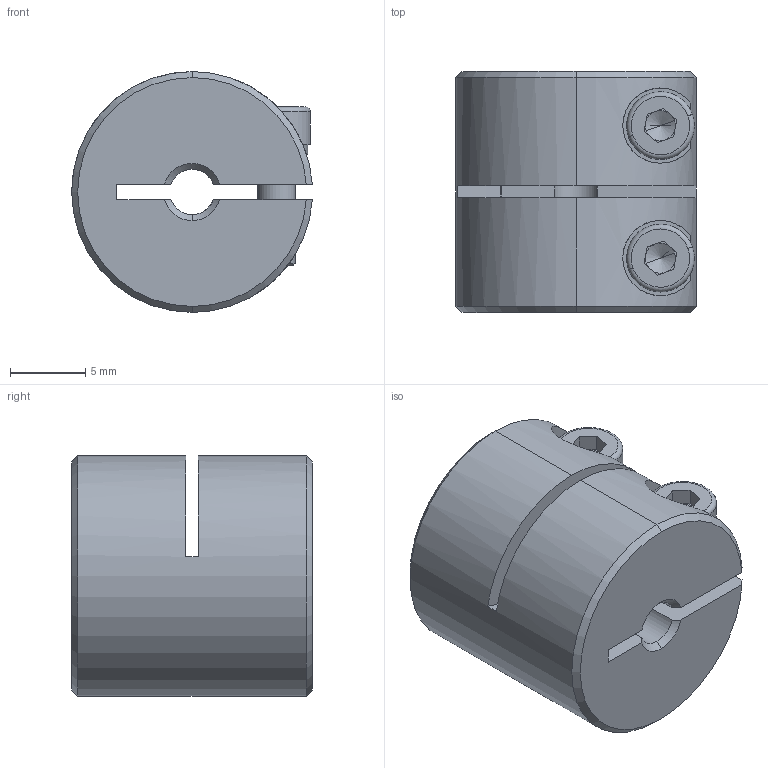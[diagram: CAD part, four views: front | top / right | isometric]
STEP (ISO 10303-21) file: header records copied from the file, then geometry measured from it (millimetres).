
FILE_DESCRIPTION (( 'STEP AP203' ), '1' );
FILE_NAME ('LL-B-D16L16-3-3.STEP', '2021-11-03T02:27:33', ( '' ), ( '' ), 'SwSTEP 2.0', 'SolidWorks 2018', '' );
FILE_SCHEMA (( 'CONFIG_CONTROL_DESIGN' ));
Length unit declared in the file: millimetre
Products named in the file (1): LL-B-D16L16-3-3
Bounding box: 15.98 x 16 x 16 mm (x, y, z)
Volume: 2829.1 mm3; surface area: 2012.4 mm2
Topology: 1 solids, 1 shells, 116 faces, 299 edges, 187 vertices
Faces by surface type: plane 50, cylinder 42, cone 20, torus 4
Entity records: 3795 total; most frequent: CARTESIAN_POINT 859, DIRECTION 624, ORIENTED_EDGE 590, EDGE_CURVE 295, AXIS2_PLACEMENT_3D 244, VERTEX_POINT 187, VECTOR 136, LINE 136
